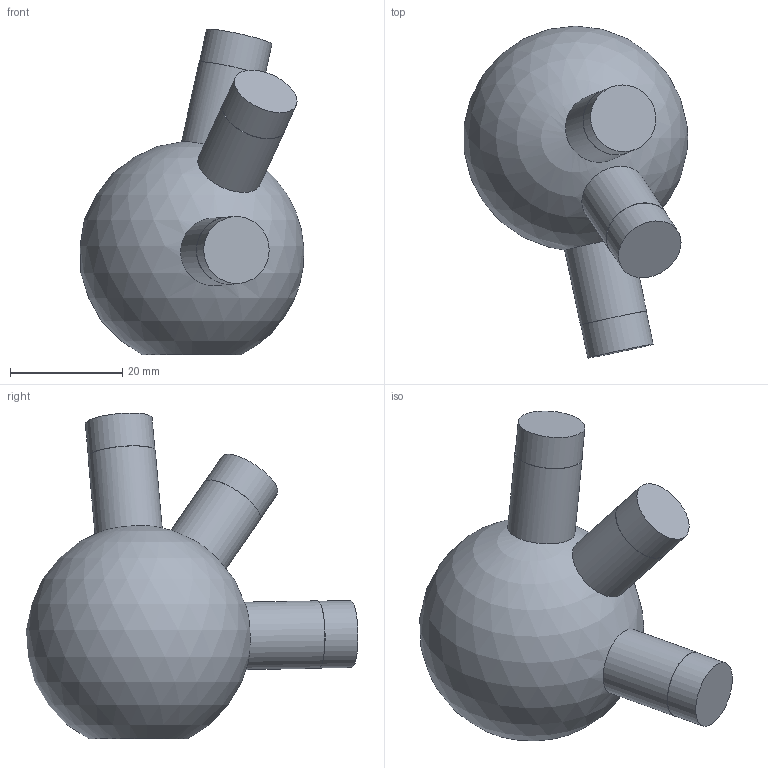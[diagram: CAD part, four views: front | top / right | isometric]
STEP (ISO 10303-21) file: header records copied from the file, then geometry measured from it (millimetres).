
FILE_DESCRIPTION(('Open CASCADE Model'),'2;1');
FILE_NAME('Open CASCADE Shape Model','2026-10-21T12:47:57',('Author'),( 'Open CASCADE'),'Open CASCADE STEP processor 7.9','Open CASCADE 7.9' ,'Unknown');
FILE_SCHEMA(('AUTOMOTIVE_DESIGN { 1 0 10303 214 1 1 1 1 }'));
Length unit declared in the file: millimetre
Products named in the file (1): Open CASCADE STEP translator 7.9 108
Bounding box: 39.78 x 59.04 x 57.96 mm (x, y, z)
Volume: 39405.1 mm3; surface area: 7399.1 mm2
Topology: 1 solids, 1 shells, 16 faces, 24 edges, 16 vertices
Faces by surface type: plane 8, cylinder 7, sphere 1
Full cylindrical faces by diameter (mm): 6.1 x1, 11.9 x3, 12 x3
Entity records: 925 total; most frequent: CARTESIAN_POINT 351, DIRECTION 119, ORIENTED_EDGE 48, PCURVE 48, DEFINITIONAL_REPRESENTATION 48, LINE 39, VECTOR 39, AXIS2_PLACEMENT_3D 34
